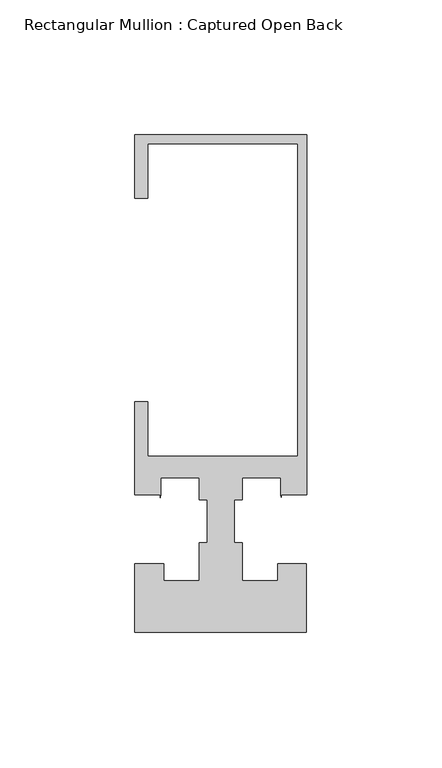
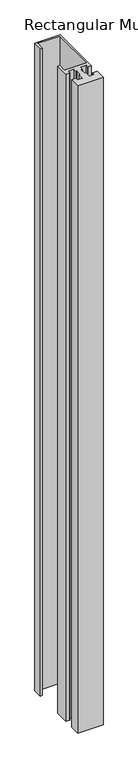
"""IFC4 building model written with IfcOpenShell, lengths in millimetres: member geometry, Rectangular Mullion : Captured Open Back."""

from ifc_helpers import new_model, si_unit, frame, origin, place, context, project, spatial, polyline, outline, extrude, source, transform, mapped, element, save


def rectangular_mullion_captured_open_back_1b6652f4(model_context):
    return source(origin(), model_context, "Body", "SweptSolid", [
        extrude(outline(polyline([(-63.5205663, 114.3), (0.0, 114.3), (0.0, -18.9488461), (-9.3386849, -18.9488461), (-9.3386849, -19.8905485), (-9.5249909, -18.948961), (-9.5249909, -12.7), (-23.8124458, -12.7), (-23.8124458, -20.8793999), (-26.7860526, -20.8793999), (-26.7860526, -36.6491027), (-23.8124461, -36.6491027), (-23.8124461, -50.8001709), (-10.7229117, -50.8001709), (-10.7229117, -44.4247364), (-0.0205663, -44.4247364), (-0.0205663, -69.8502416), (-63.5205663, -69.8502416), (-63.5205663, -44.4245655), (-52.8345479, -44.4245655), (-52.8345479, -50.8001709), (-39.6874472, -50.8001709), (-39.6874472, -36.6491027), (-36.738785, -36.6491027), (-36.738785, -20.8793999), (-39.7916658, -20.8793999), (-39.7916658, -12.7), (-53.9751125, -12.7), (-53.9751125, -18.933673), (-54.1413824, -20.0839351), (-54.1413824, -18.933673), (-63.5205663, -18.933673), (-63.5205663, 15.5833982), (-58.7374998, 15.5833982), (-58.7374998, -4.7625735), (-3.175617, -4.7625735), (-3.175617, 111.1250145), (-58.7374998, 111.1250145), (-58.7374998, 90.8721193), (-63.5205663, 90.8721193), (-63.5205663, 114.3)])), frame((0.0, 0.0, -1704.9898159), z_axis=(0.0, 0.0, 1.0), x_axis=(1.0, 0.0, 0.0)), (0.0, 0.0, 1.0), 1704.9898159),
    ])


if __name__ == "__main__":
    model = new_model("IFC4")
    model_context = context("Model", 3, world=origin())
    ifc_project = project(units=[si_unit("LENGTHUNIT", "METRE", prefix="MILLI")], contexts=[model_context])
    site = spatial("IfcSite", under=ifc_project)
    building = spatial("IfcBuilding", under=site)
    placement = place(None, origin())
    rectangular_mullion_captured_open_back_shape = rectangular_mullion_captured_open_back_1b6652f4(model_context)
    element("IfcMember", 1, ObjectType="Rectangular Mullion : Captured Open Back", at=placement, inside=building, context=model_context, shape_type="MappedRepresentation", body=[
        mapped(rectangular_mullion_captured_open_back_shape, transform((0.0, 0.0, 0.0), x_axis=(1.0, 0.0, 0.0), y_axis=(0.0, 1.0, 0.0), z_axis=(0.0, 0.0, 1.0))),
    ])
    save(model, "model.ifc")
